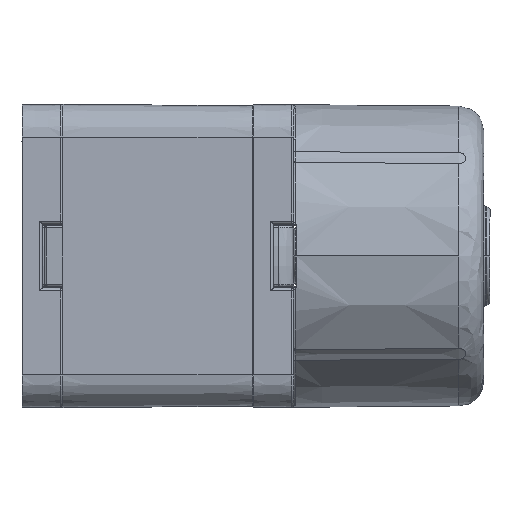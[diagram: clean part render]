
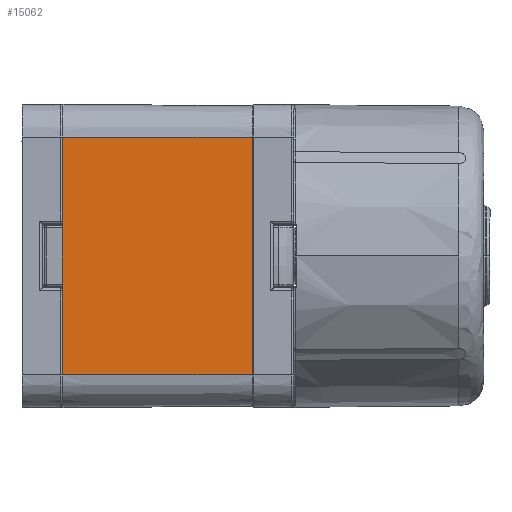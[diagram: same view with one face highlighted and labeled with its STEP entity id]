
A CAD part, front view. The second image highlights one B-rep face of the part: STEP entity #15062.
In plain terms, the highlighted planar face has unit normal (0.009, -1, 0) as drawn and (0, -0.009, -1) by its records, which use the part's own axes.
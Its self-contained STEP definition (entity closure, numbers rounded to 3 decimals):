
#266 = EDGE_CURVE ( 'NONE', #11852, #24686, #19741, .T. ) ;
#630 = VERTEX_POINT ( 'NONE', #24913 ) ;
#642 = CARTESIAN_POINT ( 'NONE',  ( -9.271, 18.85, -13.434 ) ) ;
#752 = ORIENTED_EDGE ( 'NONE', *, *, #10684, .T. ) ;
#2582 = EDGE_CURVE ( 'NONE', #24686, #8875, #14244, .T. ) ;
#2730 = CARTESIAN_POINT ( 'NONE',  ( 5.279, 18.85, -13.434 ) ) ;
#3609 = CARTESIAN_POINT ( 'NONE',  ( -12.521, 0.099, -13.27 ) ) ;
#3988 = CARTESIAN_POINT ( 'NONE',  ( 14.229, 18.85, -13.434 ) ) ;
#4456 = CARTESIAN_POINT ( 'NONE',  ( -9.271, 18.85, -13.434 ) ) ;
#4667 = VERTEX_POINT ( 'NONE', #3988 ) ;
#5631 = LINE ( 'NONE', #14440, #20492 ) ;
#5754 = CARTESIAN_POINT ( 'NONE',  ( -12.521, 18.85, -13.434 ) ) ;
#7595 = VECTOR ( 'NONE', #11183, 1000. ) ;
#7627 = VECTOR ( 'NONE', #24733, 1000. ) ;
#7813 = ORIENTED_EDGE ( 'NONE', *, *, #266, .T. ) ;
#8095 = DIRECTION ( 'NONE',  ( 1., 0., 0. ) ) ;
#8381 = PLANE ( 'NONE',  #21733 ) ;
#8875 = VERTEX_POINT ( 'NONE', #642 ) ;
#9300 = EDGE_CURVE ( 'NONE', #4667, #24017, #25848, .T. ) ;
#9569 = DIRECTION ( 'NONE',  ( -1., 0., 0. ) ) ;
#10684 = EDGE_CURVE ( 'NONE', #630, #24017, #16283, .T. ) ;
#11183 = DIRECTION ( 'NONE',  ( -1., 0., 0. ) ) ;
#11852 = VERTEX_POINT ( 'NONE', #14125 ) ;
#12315 = ORIENTED_EDGE ( 'NONE', *, *, #9300, .F. ) ;
#13697 = VECTOR ( 'NONE', #9569, 1000. ) ;
#14064 = VECTOR ( 'NONE', #8095, 1000. ) ;
#14125 = CARTESIAN_POINT ( 'NONE',  ( 14.229, 0.099, -13.27 ) ) ;
#14244 = LINE ( 'NONE', #4456, #7627 ) ;
#14440 = CARTESIAN_POINT ( 'NONE',  ( 14.229, 18.85, -13.434 ) ) ;
#14513 = CARTESIAN_POINT ( 'NONE',  ( 2.479, 18.85, -13.434 ) ) ;
#14558 = CARTESIAN_POINT ( 'NONE',  ( -12.521, 18.85, -13.434 ) ) ;
#14656 = DIRECTION ( 'NONE',  ( 0., -0.009, -1. ) ) ;
#15062 = ADVANCED_FACE ( 'NONE', ( #24490 ), #8381, .T. ) ;
#15631 = VECTOR ( 'NONE', #18348, 1000. ) ;
#16283 = LINE ( 'NONE', #5754, #14064 ) ;
#16789 = CARTESIAN_POINT ( 'NONE',  ( -9.271, 0.099, -13.27 ) ) ;
#18265 = EDGE_CURVE ( 'NONE', #630, #8875, #19631, .T. ) ;
#18348 = DIRECTION ( 'NONE',  ( -1., 0., 0. ) ) ;
#18831 = DIRECTION ( 'NONE',  ( 0., 1., -0.009 ) ) ;
#19631 = LINE ( 'NONE', #23356, #7595 ) ;
#19741 = LINE ( 'NONE', #3609, #13697 ) ;
#20492 = VECTOR ( 'NONE', #22463, 1000. ) ;
#20691 = EDGE_CURVE ( 'NONE', #4667, #11852, #5631, .T. ) ;
#21733 = AXIS2_PLACEMENT_3D ( 'NONE', #14558, #14656, #18831 ) ;
#22463 = DIRECTION ( 'NONE',  ( 0., -1., 0.009 ) ) ;
#22486 = EDGE_LOOP ( 'NONE', ( #752, #12315, #24734, #7813, #24494, #22696 ) ) ;
#22696 = ORIENTED_EDGE ( 'NONE', *, *, #18265, .F. ) ;
#23356 = CARTESIAN_POINT ( 'NONE',  ( 2.479, 18.85, -13.434 ) ) ;
#24017 = VERTEX_POINT ( 'NONE', #2730 ) ;
#24490 = FACE_OUTER_BOUND ( 'NONE', #22486, .T. ) ;
#24494 = ORIENTED_EDGE ( 'NONE', *, *, #2582, .T. ) ;
#24686 = VERTEX_POINT ( 'NONE', #16789 ) ;
#24733 = DIRECTION ( 'NONE',  ( 0., 1., -0.009 ) ) ;
#24734 = ORIENTED_EDGE ( 'NONE', *, *, #20691, .T. ) ;
#24913 = CARTESIAN_POINT ( 'NONE',  ( -0.321, 18.85, -13.434 ) ) ;
#25848 = LINE ( 'NONE', #14513, #15631 ) ;
